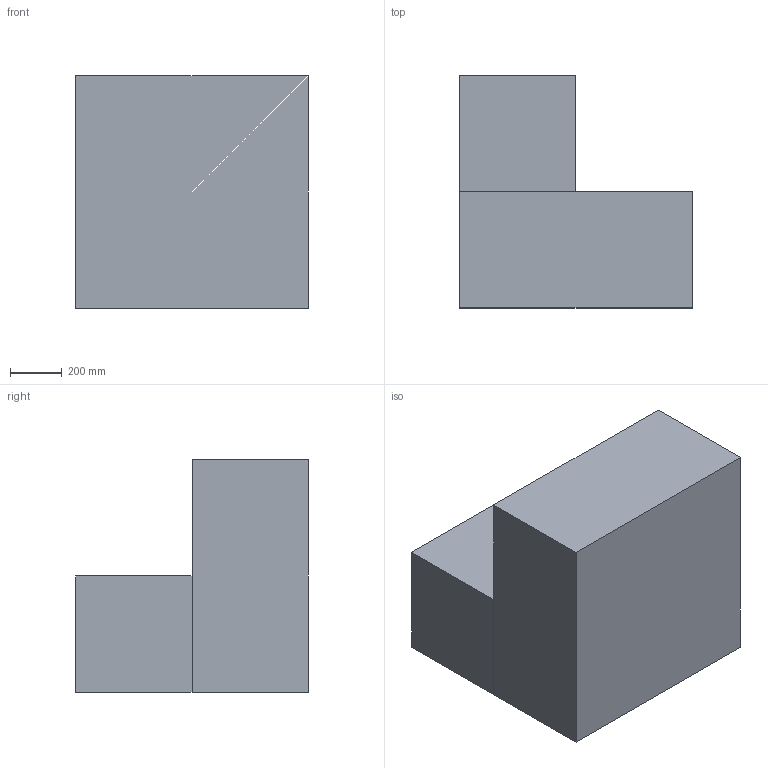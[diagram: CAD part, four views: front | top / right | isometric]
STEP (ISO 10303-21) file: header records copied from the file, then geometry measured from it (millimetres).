
FILE_DESCRIPTION (( 'STEP AP203' ), '1' );
FILE_NAME ('Type C Planter.STEP', '2019-01-15T13:55:30', ( '' ), ( '' ), 'SwSTEP 2.0', 'SolidWorks 2019', '' );
FILE_SCHEMA (( 'CONFIG_CONTROL_DESIGN' ));
Length unit declared in the file: millimetre
Products named in the file (3): Extrabox Type D_Domy˜lna; Extrabox Cubby Type A_Domy˜lna; Type C Planter
Assembly tree (2 placements, depth 2):
  Type C Planter
    Extrabox Type D_Domy˜lna
    Extrabox Cubby Type A_Domy˜lna
Bounding box: 900 x 900 x 900 mm (x, y, z)
Volume: 382539936 mm3; surface area: 5223656 mm2
Topology: 2 solids, 2 shells, 38 faces, 96 edges, 64 vertices
Faces by surface type: plane 38
Entity records: 1425 total; most frequent: CARTESIAN_POINT 203, ORIENTED_EDGE 192, DIRECTION 182, EDGE_CURVE 96, LINE 96, VECTOR 96, VERTEX_POINT 64, AXIS2_PLACEMENT_3D 43
